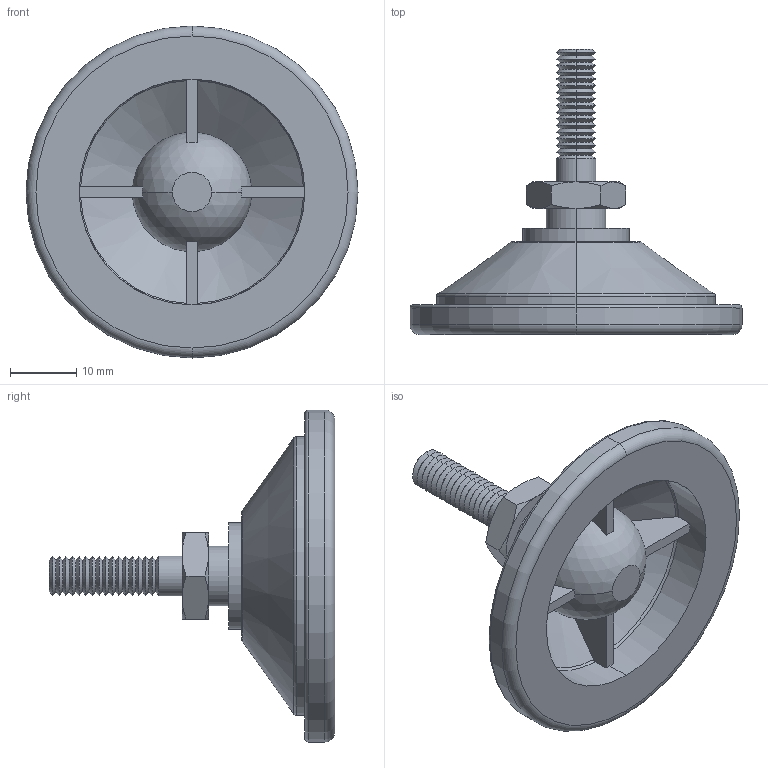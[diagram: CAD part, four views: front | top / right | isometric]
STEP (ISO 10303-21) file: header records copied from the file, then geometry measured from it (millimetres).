
FILE_DESCRIPTION (( 'STEP AP203' ), '1' );
FILE_NAME ('34741.W0061.step', '2016-09-22T07:37:09', ( 'User' ), ( '' ), 'SwSTEP 2.0', 'SolidWorks 2009', '' );
FILE_SCHEMA (( 'CONFIG_CONTROL_DESIGN' ));
Length unit declared in the file: millimetre
Products named in the file (3): Part1_34741.W0061; Part2_34741.W0061; 34741.W0061
Assembly tree (2 placements, depth 2):
  34741.W0061
    Part1_34741.W0061
    Part2_34741.W0061
Bounding box: 50 x 43 x 50 mm (x, y, z)
Volume: 12512.1 mm3; surface area: 8580.5 mm2
Topology: 2 solids, 2 shells, 144 faces, 324 edges, 186 vertices
Faces by surface type: cone 86, plane 26, cylinder 14, torus 12, sphere 6
Entity records: 4337 total; most frequent: CARTESIAN_POINT 845, DIRECTION 742, ORIENTED_EDGE 630, AXIS2_PLACEMENT_3D 318, EDGE_CURVE 315, VERTEX_POINT 181, CIRCLE 169, EDGE_LOOP 150
